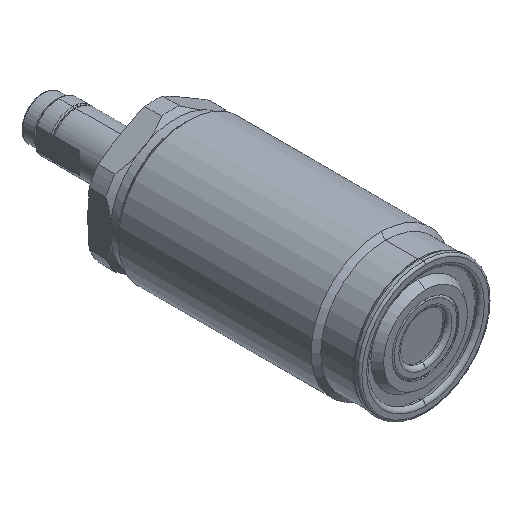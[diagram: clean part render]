
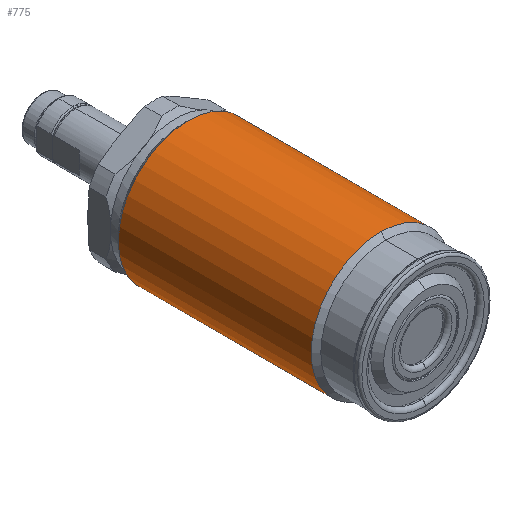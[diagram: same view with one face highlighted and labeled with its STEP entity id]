
A CAD part, isometric view. The second image highlights one B-rep face of the part: STEP entity #775.
In plain terms, the highlighted cylindrical face has radius 13 mm (diameter 26 mm), a full revolution.
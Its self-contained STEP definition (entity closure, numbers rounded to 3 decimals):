
#386=FACE_BOUND('',#1191,.T.);
#387=FACE_BOUND('',#1192,.T.);
#443=CYLINDRICAL_SURFACE('',#3272,13.);
#517=LINE('',#4955,#638);
#518=LINE('',#4960,#639);
#638=VECTOR('',#3888,1.);
#639=VECTOR('',#3891,1.);
#775=ADVANCED_FACE('',(#386,#387),#443,.T.);
#1191=EDGE_LOOP('',(#1565));
#1192=EDGE_LOOP('',(#1566,#1567,#1568,#1569,#1570,#1571));
#1565=ORIENTED_EDGE('',*,*,#2579,.T.);
#1566=ORIENTED_EDGE('',*,*,#2580,.T.);
#1567=ORIENTED_EDGE('',*,*,#2580,.F.);
#1568=ORIENTED_EDGE('',*,*,#2581,.T.);
#1569=ORIENTED_EDGE('',*,*,#2582,.T.);
#1570=ORIENTED_EDGE('',*,*,#2582,.F.);
#1571=ORIENTED_EDGE('',*,*,#2583,.T.);
#2282=VERTEX_POINT('',#4954);
#2283=VERTEX_POINT('',#4956);
#2284=VERTEX_POINT('',#4957);
#2285=VERTEX_POINT('',#4959);
#2286=VERTEX_POINT('',#4961);
#2579=EDGE_CURVE('',#2282,#2282,#2965,.T.);
#2580=EDGE_CURVE('',#2283,#2284,#517,.T.);
#2581=EDGE_CURVE('',#2283,#2285,#2966,.T.);
#2582=EDGE_CURVE('',#2285,#2286,#518,.T.);
#2583=EDGE_CURVE('',#2285,#2283,#2967,.T.);
#2965=CIRCLE('',#3269,13.);
#2966=CIRCLE('',#3270,13.);
#2967=CIRCLE('',#3271,13.);
#3269=AXIS2_PLACEMENT_3D('',#4953,#3886,#3887);
#3270=AXIS2_PLACEMENT_3D('',#4958,#3889,#3890);
#3271=AXIS2_PLACEMENT_3D('',#4962,#3892,#3893);
#3272=AXIS2_PLACEMENT_3D('',#4963,#3894,#3895);
#3886=DIRECTION('',(0.,-1.,0.));
#3887=DIRECTION('',(0.,0.,1.));
#3888=DIRECTION('',(0.,1.,0.));
#3889=DIRECTION('',(0.,1.,0.));
#3890=DIRECTION('',(0.,0.,1.));
#3891=DIRECTION('',(0.,1.,0.));
#3892=DIRECTION('',(0.,1.,0.));
#3893=DIRECTION('',(0.,0.,1.));
#3894=DIRECTION('',(0.,1.,0.));
#3895=DIRECTION('',(0.,0.,1.));
#4953=CARTESIAN_POINT('',(0.,44.2,0.));
#4954=CARTESIAN_POINT('',(0.,44.2,13.));
#4955=CARTESIAN_POINT('',(0.,52.7,13.));
#4956=CARTESIAN_POINT('',(0.,8.3,13.));
#4957=CARTESIAN_POINT('',(0.,42.353,13.));
#4958=CARTESIAN_POINT('',(0.,8.3,0.));
#4959=CARTESIAN_POINT('',(0.,8.3,-13.));
#4960=CARTESIAN_POINT('',(0.,52.7,-13.));
#4961=CARTESIAN_POINT('',(0.,42.353,-13.));
#4962=CARTESIAN_POINT('',(0.,8.3,0.));
#4963=CARTESIAN_POINT('',(0.,52.7,0.));
